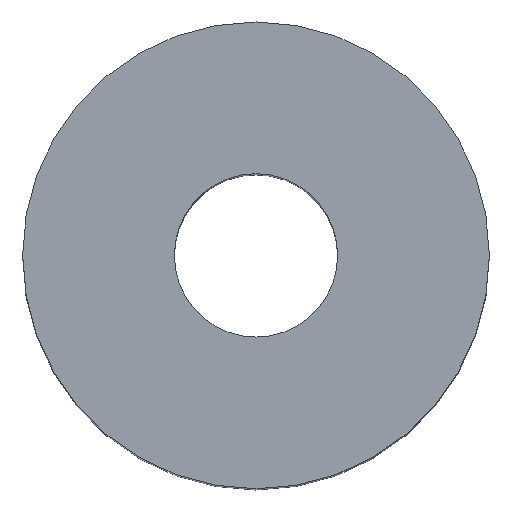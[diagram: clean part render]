
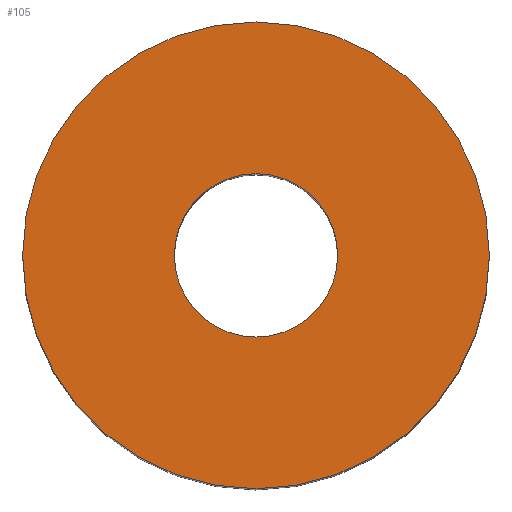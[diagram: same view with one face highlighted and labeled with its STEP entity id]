
A CAD part, top view. The second image highlights one B-rep face of the part: STEP entity #105.
In plain terms, the highlighted planar face has unit normal (0, 0, 1).
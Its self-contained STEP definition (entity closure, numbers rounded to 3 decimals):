
#21 = EDGE_CURVE('',#22,#22,#24,.T.);
#22 = VERTEX_POINT('',#23);
#23 = CARTESIAN_POINT('',(4.,0.,12.));
#24 = SURFACE_CURVE('',#25,(#30,#42),.PCURVE_S1.);
#25 = CIRCLE('',#26,4.);
#26 = AXIS2_PLACEMENT_3D('',#27,#28,#29);
#27 = CARTESIAN_POINT('',(0.,0.,12.));
#28 = DIRECTION('',(0.,0.,1.));
#29 = DIRECTION('',(1.,0.,-0.));
#30 = PCURVE('',#31,#36);
#31 = CYLINDRICAL_SURFACE('',#32,4.);
#32 = AXIS2_PLACEMENT_3D('',#33,#34,#35);
#33 = CARTESIAN_POINT('',(0.,0.,0.));
#34 = DIRECTION('',(0.,0.,1.));
#35 = DIRECTION('',(1.,0.,-0.));
#36 = DEFINITIONAL_REPRESENTATION('',(#37),#41);
#37 = LINE('',#38,#39);
#38 = CARTESIAN_POINT('',(0.,12.));
#39 = VECTOR('',#40,1.);
#40 = DIRECTION('',(1.,0.));
#41 = ( GEOMETRIC_REPRESENTATION_CONTEXT(2) 
PARAMETRIC_REPRESENTATION_CONTEXT() REPRESENTATION_CONTEXT('2D SPACE',''
  ) );
#42 = PCURVE('',#43,#48);
#43 = PLANE('',#44);
#44 = AXIS2_PLACEMENT_3D('',#45,#46,#47);
#45 = CARTESIAN_POINT('',(0.,0.,12.));
#46 = DIRECTION('',(0.,0.,1.));
#47 = DIRECTION('',(1.,0.,-0.));
#48 = DEFINITIONAL_REPRESENTATION('',(#49),#53);
#49 = CIRCLE('',#50,4.);
#50 = AXIS2_PLACEMENT_2D('',#51,#52);
#51 = CARTESIAN_POINT('',(0.,0.));
#52 = DIRECTION('',(1.,0.));
#53 = ( GEOMETRIC_REPRESENTATION_CONTEXT(2) 
PARAMETRIC_REPRESENTATION_CONTEXT() REPRESENTATION_CONTEXT('2D SPACE',''
  ) );
#105 = ADVANCED_FACE('',(#106,#109),#43,.T.);
#106 = FACE_BOUND('',#107,.T.);
#107 = EDGE_LOOP('',(#108));
#108 = ORIENTED_EDGE('',*,*,#21,.T.);
#109 = FACE_BOUND('',#110,.T.);
#110 = EDGE_LOOP('',(#111));
#111 = ORIENTED_EDGE('',*,*,#112,.F.);
#112 = EDGE_CURVE('',#113,#113,#115,.T.);
#113 = VERTEX_POINT('',#114);
#114 = CARTESIAN_POINT('',(1.4,0.,12.));
#115 = SURFACE_CURVE('',#116,(#121,#128),.PCURVE_S1.);
#116 = CIRCLE('',#117,1.4);
#117 = AXIS2_PLACEMENT_3D('',#118,#119,#120);
#118 = CARTESIAN_POINT('',(0.,0.,12.));
#119 = DIRECTION('',(0.,0.,1.));
#120 = DIRECTION('',(1.,0.,-0.));
#121 = PCURVE('',#43,#122);
#122 = DEFINITIONAL_REPRESENTATION('',(#123),#127);
#123 = CIRCLE('',#124,1.4);
#124 = AXIS2_PLACEMENT_2D('',#125,#126);
#125 = CARTESIAN_POINT('',(0.,0.));
#126 = DIRECTION('',(1.,0.));
#127 = ( GEOMETRIC_REPRESENTATION_CONTEXT(2) 
PARAMETRIC_REPRESENTATION_CONTEXT() REPRESENTATION_CONTEXT('2D SPACE',''
  ) );
#128 = PCURVE('',#129,#134);
#129 = CYLINDRICAL_SURFACE('',#130,1.4);
#130 = AXIS2_PLACEMENT_3D('',#131,#132,#133);
#131 = CARTESIAN_POINT('',(0.,0.,-1.));
#132 = DIRECTION('',(0.,0.,1.));
#133 = DIRECTION('',(1.,0.,-0.));
#134 = DEFINITIONAL_REPRESENTATION('',(#135),#139);
#135 = LINE('',#136,#137);
#136 = CARTESIAN_POINT('',(0.,13.));
#137 = VECTOR('',#138,1.);
#138 = DIRECTION('',(1.,0.));
#139 = ( GEOMETRIC_REPRESENTATION_CONTEXT(2) 
PARAMETRIC_REPRESENTATION_CONTEXT() REPRESENTATION_CONTEXT('2D SPACE',''
  ) );
